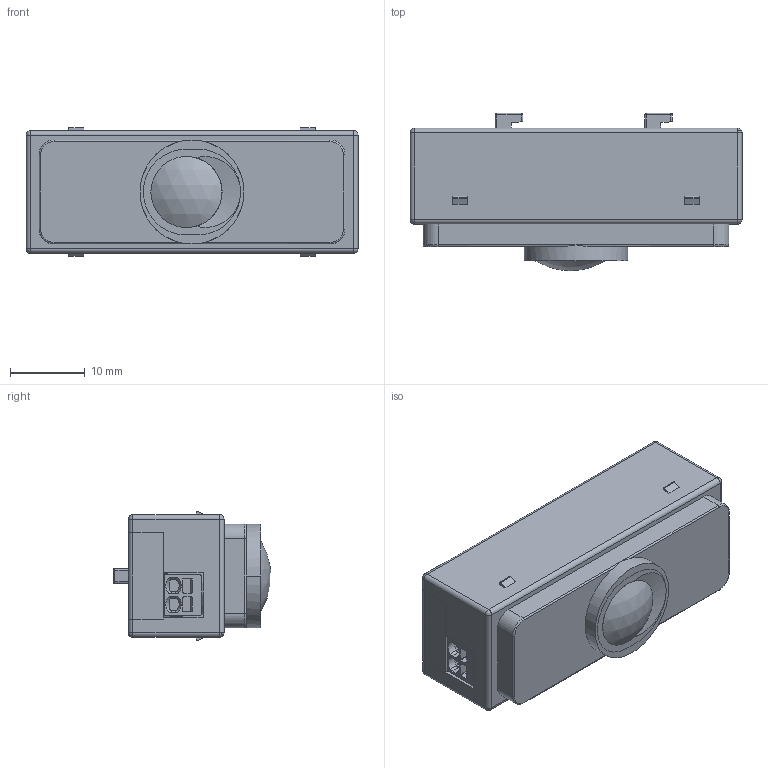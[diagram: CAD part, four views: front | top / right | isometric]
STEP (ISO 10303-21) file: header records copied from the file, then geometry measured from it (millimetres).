
FILE_DESCRIPTION((''),'2;1');
FILE_NAME('15013929Z','2020-05-22T16:25:37',('muell'),(''),'CREO PARAMETRIC BY PTC INC, 2017380','CREO PARAMETRIC BY PTC INC, 2017380','');
FILE_SCHEMA(('AUTOMOTIVE_DESIGN { 1 0 10303 214 1 1 1 1 }'));
Length unit declared in the file: millimetre
Products named in the file (1): 15013929Z
Bounding box: 44.4 x 21.03 x 17.2 mm (x, y, z)
Volume: 6136.4 mm3; surface area: 9235.5 mm2
Topology: 10 solids, 11 shells, 669 faces, 1759 edges, 1126 vertices
Faces by surface type: plane 408, cylinder 197, sphere 31, cone 27, torus 4, extrusion 1, bspline 1
Entity records: 31256 total; most frequent: CARTESIAN_POINT 4264, ORIENTED_EDGE 3490, DIRECTION 3430, PRESENTATION_STYLE_ASSIGNMENT 2415, STYLED_ITEM 1756, CURVE_STYLE 1746, EDGE_CURVE 1745, VECTOR 1190
